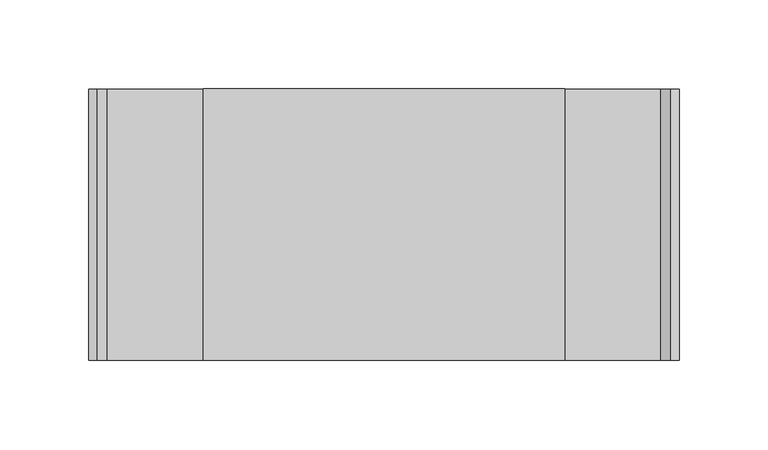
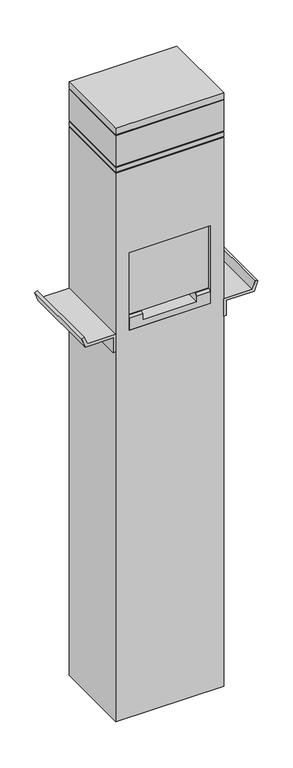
"""IFC4 building model written with IfcOpenShell, lengths in millimetres: proxy geometry, Charging_Station-Wiremold-Accent_Light : Outdoor Charging Station with Accent Light, 3 Gangs (1x GFCI, 2x 4USB), Silver."""

from ifc_helpers import new_model, si_unit, frame, origin, origin_with_axes, place, context, project, spatial, polyline, circle_curve, outline, extrude, faceted_brep, source, transform, mapped, element, save
from ifc_brep_helpers import plane_surface, revolved_surface, advanced_brep


def electrical_fixtures_08988e87(model_context):
    return source(origin(), model_context, "Body", "SolidModel", [
        extrude(outline(polyline([(736.2825, -106.68), (736.2825, -101.6), (770.89, -101.6), (770.89, -155.575), (785.8125, -161.0063458), (784.0750377, -165.7799843), (765.81, -159.1320543), (765.81, -106.68), (736.2825, -106.68)])), frame((0.0, -76.2, 0.0), z_axis=(0.0, 1.0, 0.0), x_axis=(0.0, 0.0, 1.0)), (0.0, 0.0, 1.0), 152.4),
        extrude(outline(polyline([(736.2825, 106.68), (765.81, 106.68), (765.81, 159.1320543), (784.0750377, 165.7799843), (785.8125, 161.0063458), (770.89, 155.575), (770.89, 101.6), (736.2825, 101.6), (736.2825, 106.68)])), frame((0.0, -76.2, 0.0), z_axis=(0.0, 1.0, 0.0), x_axis=(0.0, 0.0, 1.0)), (0.0, 0.0, 1.0), 152.4),
        extrude(outline(polyline([(76.2, -38.1), (76.2, -70.612), (-76.2, -70.612), (-76.2, -38.1), (76.2, -38.1)])), frame((0.0, 0.0, 798.068), z_axis=(0.0, 0.0, 1.0), x_axis=(1.0, 0.0, 0.0)), (0.0, 0.0, 1.0), 158.75),
        faceted_brep([(76.2, -76.2, 770.89), (76.2, 19.05, 770.89), (76.2, 19.05, 798.068), (76.2, -72.136, 798.068), (76.2, -76.2, 794.004), (-76.2, -76.2, 770.89), (-76.2, -76.2, 794.004), (-76.2, -72.136, 798.068), (-76.2, 19.05, 798.068), (-76.2, 19.05, 770.89), (-50.8, -72.136, 798.068), (-50.8, -31.8809117, 798.068), (50.8, -31.8809117, 798.068), (50.8, -72.136, 798.068), (50.8, -76.2, 794.004), (50.8, -76.2, 782.193), (-50.8, -76.2, 782.193), (-50.8, -76.2, 794.004), (50.8, -50.8, 782.193), (-50.8, -50.8, 782.193)], [[[0, 1, 2, 3, 4]], [[5, 6, 7, 8, 9]], [[1, 0, 5, 9]], [[2, 1, 9, 8]], [[3, 2, 8, 7, 10, 11, 12, 13]], [[0, 4, 14, 15, 16, 17, 6, 5]], [[12, 18, 15, 14, 13]], [[16, 19, 11, 10, 17]], [[18, 12, 11, 19]], [[15, 18, 19, 16]], [[4, 3, 13, 14]], [[7, 6, 17, 10]]]),
        advanced_brep(
        [(101.6, 76.2, 1092.2), (-101.6, 76.2, 1092.2), (-101.6, -76.2, 1092.2), (101.6, -76.2, 1092.2), (101.6, 76.2, 0.0), (101.6, -76.2, 0.0), (-101.6, -76.2, 0.0), (-101.6, 76.2, 0.0), (-55.0037, 0.0, 0.0), (55.0037, 0.0, 0.0), (76.2, -76.2, 925.068), (76.2, -76.2, 770.89), (-76.2, -76.2, 770.89), (-76.2, -76.2, 925.068), (76.2, 19.05, 925.068), (76.2, 19.05, 770.89), (76.2, -70.612, 925.068), (76.2, -70.612, 956.818), (76.2, -38.1, 956.818), (76.2, -38.1, 925.068), (-76.2, 19.05, 925.068), (-76.2, -38.1, 925.068), (-76.2, -38.1, 956.818), (-76.2, -70.612, 956.818), (-76.2, -70.612, 925.068), (-76.2, 19.05, 770.89), (-55.0037, 0.0, 203.2), (55.0037, 0.0, 203.2)],
        [
            (0, 1),
            (1, 2),
            (2, 3),
            (3, 0),
            (4, 5),
            (5, 6),
            (6, 7),
            (7, 4),
            (8, 9, circle_curve(origin_with_axes(), 55.0037)),
            (9, 8, circle_curve(origin_with_axes(), 55.0037)),
            (0, 4),
            (7, 1),
            (6, 2),
            (5, 3),
            (10, 11),
            (11, 12),
            (12, 13),
            (13, 10),
            (14, 15),
            (15, 11),
            (10, 16),
            (16, 17),
            (17, 18),
            (18, 19),
            (19, 14),
            (20, 21),
            (21, 22),
            (22, 23),
            (23, 24),
            (24, 13),
            (12, 25),
            (25, 20),
            (19, 21),
            (20, 14),
            (15, 25),
            (18, 22),
            (17, 23),
            (16, 24),
            (26, 27, circle_curve(frame((0.0, 0.0, 203.2), z_axis=(0.0, 0.0, -1.0), x_axis=(1.0, 0.0, 0.0)), 55.0037)),
            (27, 26, circle_curve(frame((0.0, 0.0, 203.2), z_axis=(0.0, 0.0, -1.0), x_axis=(1.0, 0.0, 0.0)), 55.0037)),
            (27, 9),
            (8, 26),
        ],
        [
            plane_surface(frame((-101.6, 76.2, 1092.2), z_axis=(0.0, 0.0, 1.0), x_axis=(-1.0, 0.0, 0.0))),
            plane_surface(frame((-101.6, 76.2, 0.0), z_axis=(0.0, 0.0, -1.0), x_axis=(1.0, 0.0, 0.0))),
            plane_surface(frame((101.6, 76.2, 1092.2), z_axis=(0.0, 1.0, 0.0), x_axis=(0.0, 0.0, -1.0))),
            plane_surface(frame((-101.6, 76.2, 1092.2), z_axis=(-1.0, 0.0, 0.0), x_axis=(0.0, 0.0, -1.0))),
            plane_surface(frame((-101.6, -76.2, 1092.2), z_axis=(0.0, -1.0, 0.0), x_axis=(0.0, 0.0, -1.0))),
            plane_surface(frame((101.6, -76.2, 1092.2), z_axis=(1.0, 0.0, 0.0), x_axis=(0.0, 0.0, -1.0))),
            plane_surface(frame((76.2, -38.1, 925.068), z_axis=(-1.0, 0.0, 0.0), x_axis=(0.0, -1.0, 0.0))),
            plane_surface(frame((-76.2, -38.1, 925.068), z_axis=(1.0, 0.0, 0.0), x_axis=(0.0, 1.0, 0.0))),
            plane_surface(frame((76.2, 19.05, 925.068), z_axis=(0.0, 0.0, -1.0), x_axis=(-1.0, 0.0, 0.0))),
            plane_surface(frame((76.2, -76.2, 770.89), z_axis=(0.0, 0.0, 1.0), x_axis=(-1.0, 0.0, 0.0))),
            plane_surface(frame((76.2, 19.05, 770.89), z_axis=(0.0, -1.0, 0.0), x_axis=(-1.0, 0.0, 0.0))),
            plane_surface(frame((76.2, -38.1, 925.068), z_axis=(0.0, -1.0, 0.0), x_axis=(-1.0, 0.0, 0.0))),
            plane_surface(frame((76.2, -38.1, 956.818), z_axis=(0.0, 0.0, -1.0), x_axis=(-1.0, 0.0, 0.0))),
            plane_surface(frame((76.2, -70.612, 956.818), z_axis=(0.0, 1.0, 0.0), x_axis=(-1.0, 0.0, 0.0))),
            plane_surface(frame((76.2, -70.612, 925.068), z_axis=(0.0, 0.0, -1.0), x_axis=(-1.0, 0.0, 0.0))),
            plane_surface(frame((55.0037, 0.0, 203.2), z_axis=(0.0, 0.0, -1.0), x_axis=(0.0, 1.0, 0.0))),
            revolved_surface(polyline([(55.0037, 0.0, 203.2), (55.0037, 0.0, 0.0)]), (0.0, 0.0, 0.0), (0.0, 0.0, 1.0)),
        ],
        [
            (0, [[1, 2, 3, 4]]),
            (1, [[5, 6, 7, 8], [9, 10]]),
            (2, [[-1, 11, -8, 12]]),
            (3, [[-2, -12, -7, 13]]),
            (4, [[-3, -13, -6, 14], [15, 16, 17, 18]]),
            (5, [[-4, -14, -5, -11]]),
            (6, [[19, 20, -15, 21, 22, 23, 24, 25]]),
            (7, [[26, 27, 28, 29, 30, -17, 31, 32]]),
            (8, [[-25, 33, -26, 34]]),
            (9, [[-20, 35, -31, -16]]),
            (10, [[-19, -34, -32, -35]]),
            (11, [[-24, 36, -27, -33]]),
            (12, [[-23, 37, -28, -36]]),
            (13, [[-22, 38, -29, -37]]),
            (14, [[-21, -18, -30, -38]]),
            (15, [[39, 40]]),
            (16, [[-40, 41, -9, 42]]),
            (16, [[-39, -42, -10, -41]]),
        ],
    ),
        extrude(outline(polyline([(99.822, 74.422), (99.822, -74.422), (-99.822, -74.422), (-99.822, 74.422), (99.822, 74.422)])), frame((0.0, 0.0, 1166.622), z_axis=(0.0, 0.0, 1.0), x_axis=(1.0, 0.0, 0.0)), (0.0, 0.0, 1.0), 1.778),
        extrude(outline(polyline([(99.822, 74.422), (99.822, -74.422), (-99.822, -74.422), (-99.822, 74.422), (99.822, 74.422)])), frame((0.0, 0.0, 1103.122), z_axis=(0.0, 0.0, 1.0), x_axis=(1.0, 0.0, 0.0)), (0.0, 0.0, 1.0), 1.778),
        extrude(outline(polyline([(99.822, 74.422), (99.822, -74.422), (-99.822, -74.422), (-99.822, 74.422), (99.822, 74.422)])), frame((0.0, 0.0, 1092.2), z_axis=(0.0, 0.0, 1.0), x_axis=(1.0, 0.0, 0.0)), (0.0, 0.0, 1.0), 1.778),
        extrude(outline(polyline([(101.6, 76.2), (101.6, -76.2), (-101.6, -76.2), (-101.6, 76.2), (101.6, 76.2)])), frame((0.0, 0.0, 1168.4), z_axis=(0.0, 0.0, 1.0), x_axis=(1.0, 0.0, 0.0)), (0.0, 0.0, 1.0), 12.7),
        extrude(outline(polyline([(101.6, 76.2), (101.6, -76.2), (-101.6, -76.2), (-101.6, 76.2), (101.6, 76.2)])), frame((0.0, 0.0, 1104.9), z_axis=(0.0, 0.0, 1.0), x_axis=(1.0, 0.0, 0.0)), (0.0, 0.0, 1.0), 61.722),
        extrude(outline(polyline([(101.6, 76.2), (101.6, -76.2), (-101.6, -76.2), (-101.6, 76.2), (101.6, 76.2)])), frame((0.0, 0.0, 1093.978), z_axis=(0.0, 0.0, 1.0), x_axis=(1.0, 0.0, 0.0)), (0.0, 0.0, 1.0), 9.144),
    ])


if __name__ == "__main__":
    model = new_model("IFC4")
    model_context = context("Model", 3, world=origin())
    ifc_project = project(units=[si_unit("LENGTHUNIT", "METRE", prefix="MILLI")], contexts=[model_context])
    site = spatial("IfcSite", under=ifc_project)
    building = spatial("IfcBuilding", under=site)
    placement = place(None, origin())
    electrical_fixtures_shape = electrical_fixtures_08988e87(model_context)
    element("IfcBuildingElementProxy", 1, Name="Charging_Station-Wiremold-Accent_Light : Outdoor Charging Station with Accent Light, 3 Gangs (1x GFCI, 2x 4USB), Silver", ObjectType="Charging_Station-Wiremold-Accent_Light : Outdoor Charging Station with Accent Light, 3 Gangs (1x GFCI, 2x 4USB), Silver", at=placement, inside=building, context=model_context, shape_type="MappedRepresentation", body=[
        mapped(electrical_fixtures_shape, transform((0.0, 0.0, 0.0), x_axis=(1.0, 0.0, 0.0), y_axis=(0.0, 1.0, 0.0), z_axis=(0.0, 0.0, 1.0))),
    ])
    save(model, "model.ifc")
